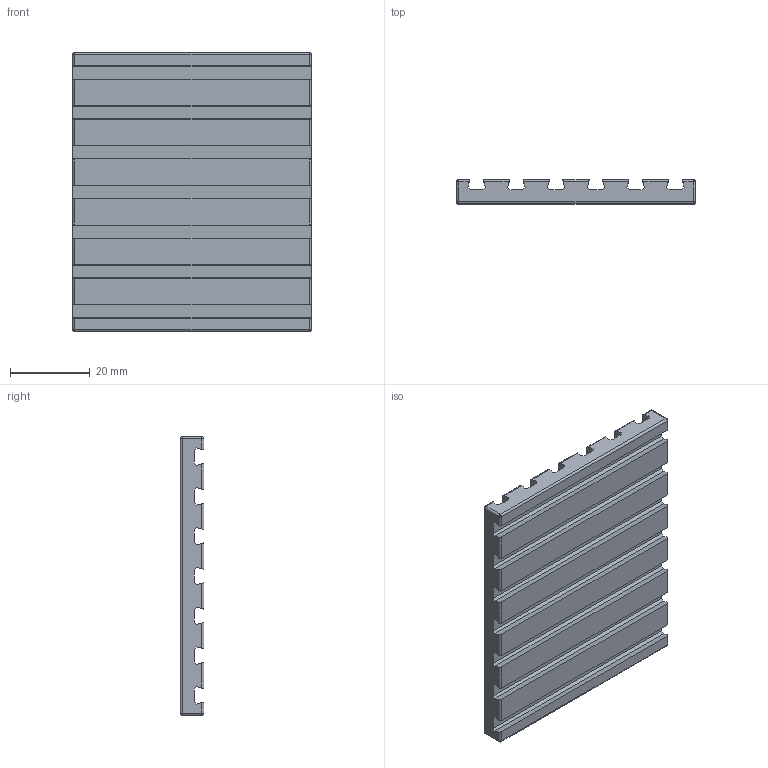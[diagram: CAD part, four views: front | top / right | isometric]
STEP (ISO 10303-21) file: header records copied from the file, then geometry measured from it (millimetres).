
FILE_DESCRIPTION(/* description */ (''),/* implementation_level */ '2;1');
FILE_NAME(/* name */ 'C:/Users/priba/Downloads/Brick6x7x0.6ffCross.step',/* time_stamp */ '2022-04-06T18:55:22+02:00',/* author */ (''),/* organization */ (''),/* preprocessor_version */ 'ST-DEVELOPER v18.1',/* originating_system */ 'Autodesk Translation Framework v10.13.0.1454',/* authorisation */ '');
FILE_SCHEMA (('AUTOMOTIVE_DESIGN { 1 0 10303 214 3 1 1 }'));
Length unit declared in the file: millimetre
Products named in the file (1): Brick6x7x0.6ffCross
Bounding box: 60 x 6 x 70 mm (x, y, z)
Volume: 17190.1 mm3; surface area: 14090.3 mm2
Topology: 1 solids, 1 shells, 130 faces, 360 edges, 232 vertices
Faces by surface type: plane 84, cylinder 38, sphere 8
Entity records: 4130 total; most frequent: CARTESIAN_POINT 723, ORIENTED_EDGE 720, DIRECTION 698, EDGE_CURVE 360, LINE 284, VECTOR 284, VERTEX_POINT 232, AXIS2_PLACEMENT_3D 207
